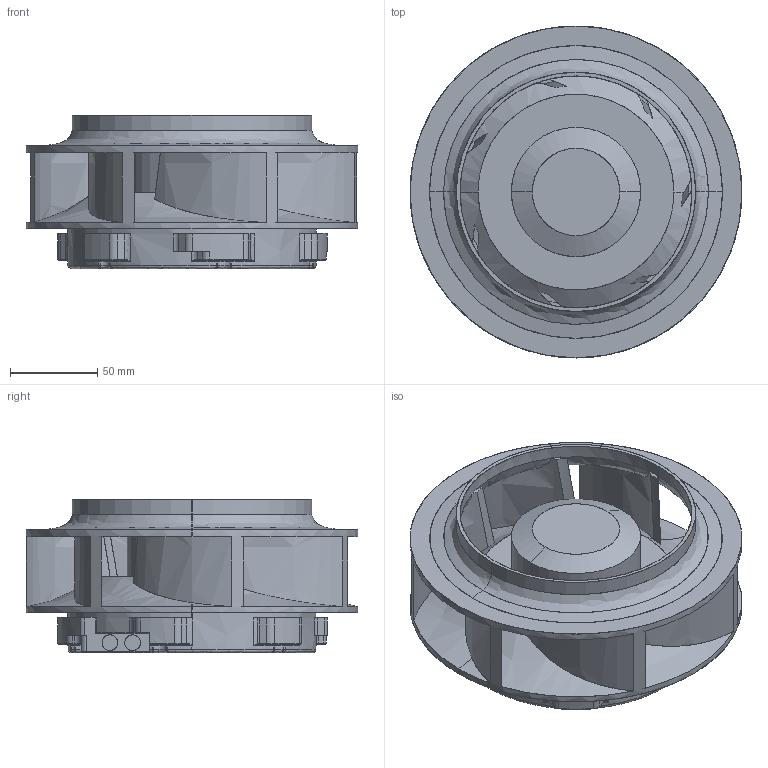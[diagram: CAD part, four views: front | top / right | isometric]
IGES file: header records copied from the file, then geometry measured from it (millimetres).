
Start section: SolidWorks IGES file using analytic representation for surfaces
Global section: file name: C:\Users\Miyabara-Yoshinori\SolidWorks_4200\190AD\岞奐梡3D\兂190x88_9AD.IGS; native system: SolidWorks 2019; preprocessor: SolidWorks 2019; author: Miyabara-Yoshinori; date: 210115.181930; units: millimetre
Bounding box: 190 x 190 x 88 mm (x, y, z)
Surface area: 168732 mm2 (no closed solid volume)
Topology: 0 solids, 0 shells, 391 faces, 4508 edges, 4485 vertices
Faces by surface type: bspline 218, revolution 173
